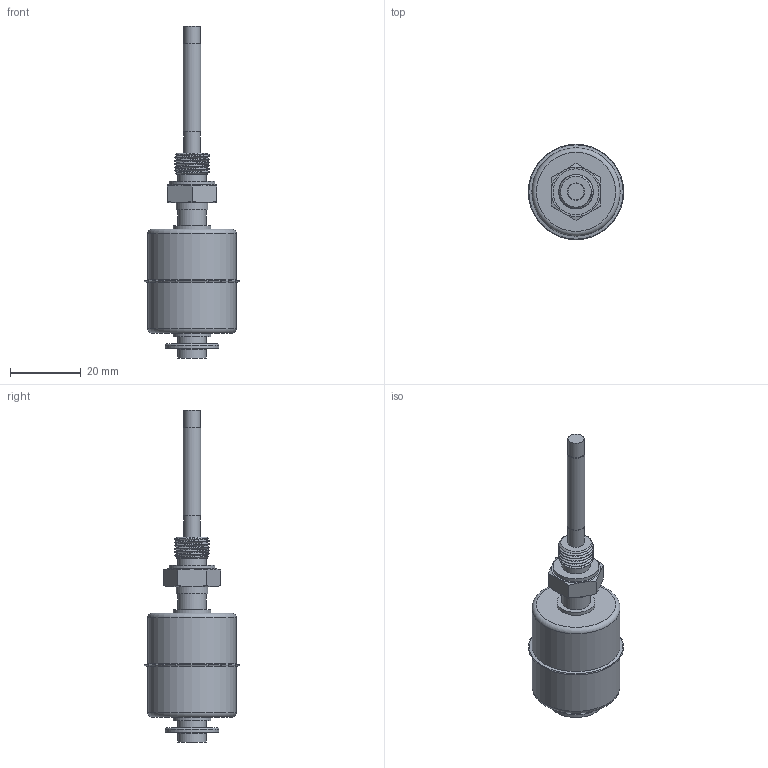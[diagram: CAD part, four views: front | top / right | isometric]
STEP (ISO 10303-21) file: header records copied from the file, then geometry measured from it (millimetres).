
FILE_DESCRIPTION(/* description */ ('Katalogmodell Elobau'),/* implementation_level */ '2;1');
FILE_NAME(/* name */ '20341109_1_A.stp',/* time_stamp */ '2014-09-26T09:58:12+02:00',/* author */ ('Elobau GmbH & Co. KG'),/* organization */ ('Elobau GmbH & Co. KG'),/* preprocessor_version */ 'ST-DEVELOPER v15',/* originating_system */ 'SIEMENS PLM Software NX 8.5',/* authorisation */ '');
FILE_SCHEMA (('AUTOMOTIVE_DESIGN { 1 0 10303 214 3 1 1 1 }'));
Length unit declared in the file: millimetre
Products named in the file (1): 20341109-1_A
Bounding box: 27 x 27 x 94 mm (x, y, z)
Volume: 17473.7 mm3; surface area: 5525.7 mm2
Topology: 1 solids, 1 shells, 69 faces, 135 edges, 84 vertices
Faces by surface type: plane 26, cylinder 18, cone 18, torus 5, bspline 2
Full cylindrical faces by diameter (mm): 4.6 x2, 4.925 x1, 7.9 x1, 8 x4, 9 x1, 10.7 x2, 13 x1, 14.75 x1, 15.25 x1, 25 x2
Entity records: 3820 total; most frequent: CARTESIAN_POINT 2077, DIRECTION 262, ORIENTED_EDGE 208, AXIS2_PLACEMENT_3D 125, EDGE_LOOP 111, EDGE_CURVE 104, FACE_BOUND 84, VERTEX_POINT 79
